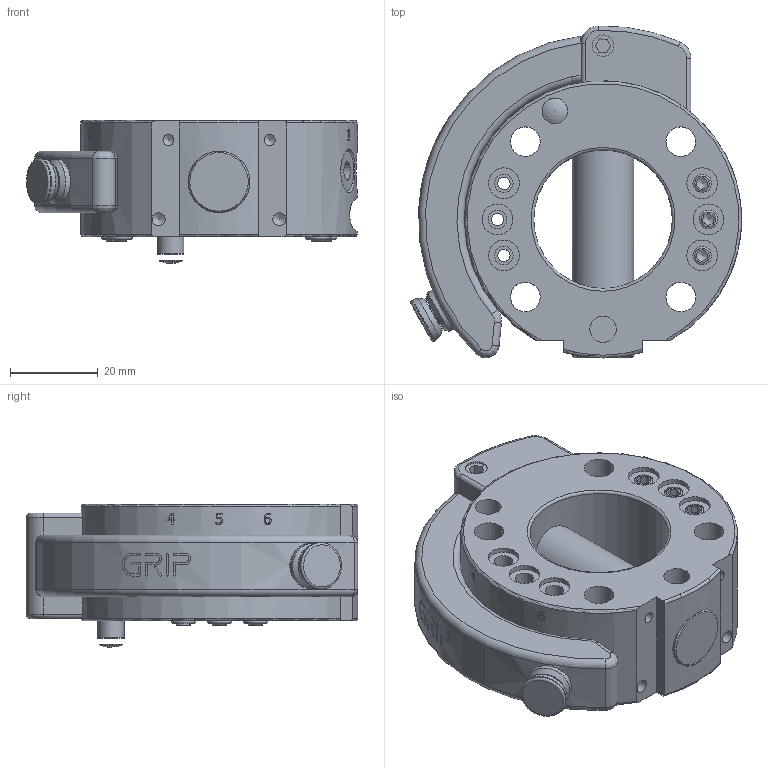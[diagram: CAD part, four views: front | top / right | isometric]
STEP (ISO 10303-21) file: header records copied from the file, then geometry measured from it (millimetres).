
FILE_DESCRIPTION(/* description */ (''),/* implementation_level */ '2;1');
FILE_NAME(/* name */ 'G-SHS063-O-K050.stp',/* time_stamp */ '2024-05-29T08:22:30+02:00',/* author */ ('ysplieth'),/* organization */ (''),/* preprocessor_version */ 'ST-DEVELOPER v20',/* originating_system */ 'Autodesk Inventor 2024',/* authorisation */ '');
FILE_SCHEMA (('AUTOMOTIVE_DESIGN { 1 0 10303 214 3 1 1 }'));
Length unit declared in the file: millimetre
Products named in the file (1): Bauteil3
Bounding box: 75.3 x 75.49 x 32.6 mm (x, y, z)
Volume: 76367.7 mm3; surface area: 25758.3 mm2
Topology: 1 solids, 13 shells, 492 faces, 1210 edges, 787 vertices
Faces by surface type: plane 179, cylinder 149, bspline 65, cone 54, torus 43, sphere 2
Full cylindrical faces by diameter (mm): 0.504 x1, 2.5 x2, 2.8 x6, 3 x2, 3.3 x2, 4 x3, 4.1 x2, 4.2 x18, 4.8 x1, 4.917 x4, 5.8 x1, 6 x2, 6.5 x12, 6.75 x4, 6.8 x1, 7 x7, 10.15 x1, 10.2 x1, 10.6 x1, 11 x4, 14 x2, 31.5 x1
Entity records: 18419 total; most frequent: CARTESIAN_POINT 6468, ORIENTED_EDGE 2388, DIRECTION 2231, EDGE_CURVE 1194, AXIS2_PLACEMENT_3D 874, VERTEX_POINT 787, EDGE_LOOP 593, STYLED_ITEM 493
